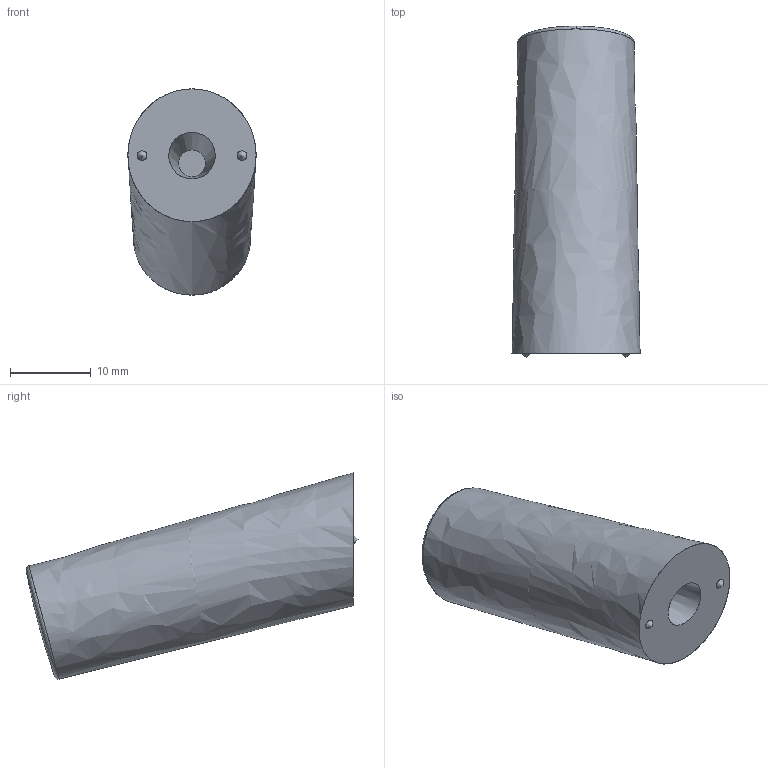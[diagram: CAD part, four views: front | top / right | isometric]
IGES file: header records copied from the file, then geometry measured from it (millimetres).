
Start section: C
Global section: file name: 8344-42.igs; native system: By Siemens PLM Incorporated; preprocessor: XPlus GENERIC/IGES 16.0.42; author: Author; organization: Title; date: 20230815.131339; units: millimetre
Bounding box: 15.91 x 41.19 x 25.59 mm (x, y, z)
Surface area: 2384.8 mm2 (no closed solid volume)
Topology: 0 solids, 0 shells, 8 faces, 39 edges, 35 vertices
Faces by surface type: bspline 8
